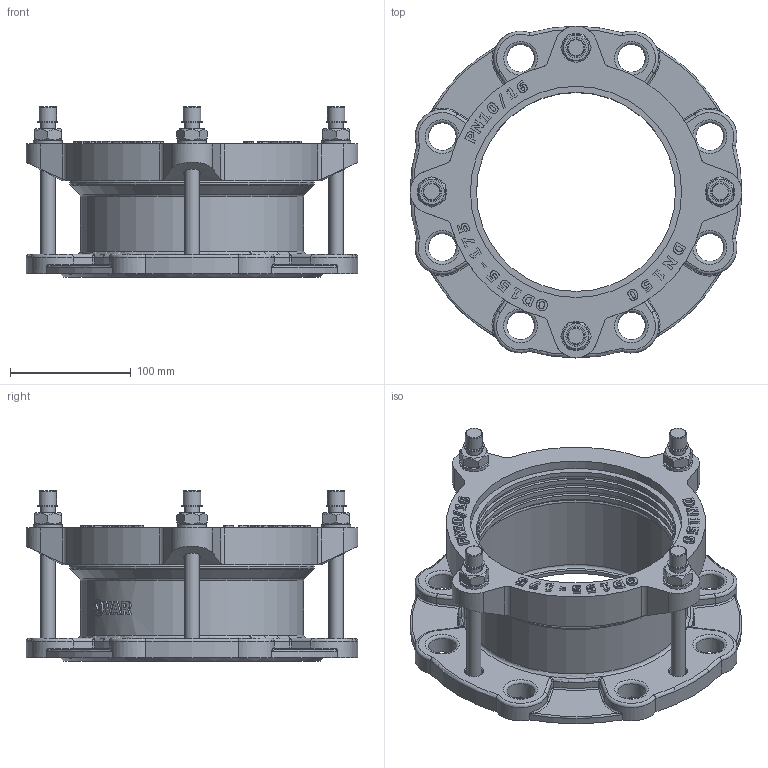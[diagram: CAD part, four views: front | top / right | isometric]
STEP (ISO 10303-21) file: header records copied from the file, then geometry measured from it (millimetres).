
FILE_DESCRIPTION(('STEP AP203'), '1');
FILE_NAME('Ôëàíöåâûé àäàïòåð', '', ('UNSPECIFIED'), ('UNSPECIFIED'), 'C3D Converter', 'C3D Toolkit', '');
FILE_SCHEMA(('CONFIG_CONTROL_DESIGN'));
Length unit declared in the file: millimetre
Assembly tree (19 placements, depth 2):
  (unnamed)
    (unnamed)
    (unnamed)  x4
    (unnamed)  x4
    (unnamed)  x4
    (unnamed)  x4
    (unnamed)
    (unnamed)
Bounding box: 275 x 275 x 141.2 mm (x, y, z)
Volume: 1276658.9 mm3; surface area: 363073.8 mm2
Topology: 19 solids, 19 shells, 999 faces, 2533 edges, 1572 vertices
Faces by surface type: plane 352, extrusion 286, cylinder 202, torus 71, cone 32, bspline 32, sphere 24
Full cylindrical faces by diameter (mm): 12 x12, 13 x4, 13.478 x1, 14 x8, 14.4 x4, 16.8 x4, 23 x8, 24 x4, 165 x5, 170 x3, 175 x2, 180 x1, 185 x2, 202.5 x1, 205 x2
Entity records: 39027 total; most frequent: CARTESIAN_POINT 14572, ORIENTED_EDGE 4336, DIRECTION 3384, EDGE_CURVE 2168, VERTEX_POINT 1416, VECTOR 1268, AXIS2_PLACEMENT_3D 1058, EDGE_LOOP 1040
